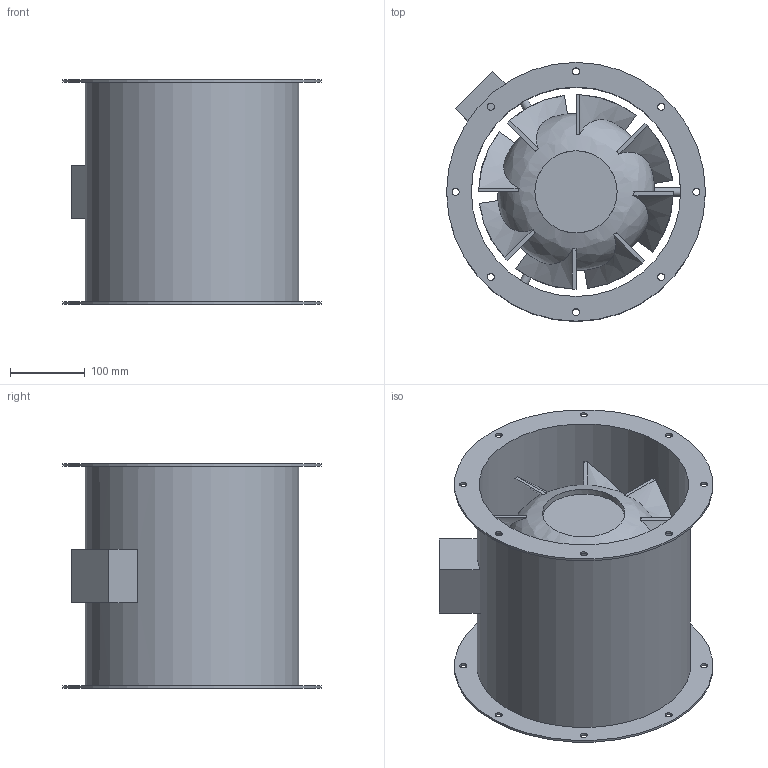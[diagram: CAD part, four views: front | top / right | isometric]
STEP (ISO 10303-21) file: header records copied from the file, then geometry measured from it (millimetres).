
FILE_DESCRIPTION(/* description */ (''),/* implementation_level */ '2;1');
FILE_NAME(/* name */ 'Z:\Output\VARD_280-2_EX-06676-020.stp',/* time_stamp */ '2017-10-09T10:48:39+02:00',/* author */ ('jayeshpanchal'),/* organization */ (''),/* preprocessor_version */ 'ST-DEVELOPER v16.5',/* originating_system */ 'Autodesk Inventor 2017',/* authorisation */ '');
FILE_SCHEMA (('AUTOMOTIVE_DESIGN { 1 0 10303 214 3 1 1 }'));
Length unit declared in the file: millimetre
Products named in the file (1): AVD-RK
Bounding box: 346 x 346 x 300 mm (x, y, z)
Volume: 6361130 mm3; surface area: 960322.5 mm2
Topology: 1 solids, 1 shells, 156 faces, 460 edges, 312 vertices
Faces by surface type: plane 83, cylinder 44, bspline 27, cone 2
Full cylindrical faces by diameter (mm): 9.5 x16, 11.5 x3, 30 x1, 110 x1, 210 x1, 280 x1, 286 x1, 346 x2
Entity records: 5923 total; most frequent: CARTESIAN_POINT 1985, ORIENTED_EDGE 834, DIRECTION 734, EDGE_CURVE 417, AXIS2_PLACEMENT_3D 302, VERTEX_POINT 298, EDGE_LOOP 227, FACE_OUTER_BOUND 155
